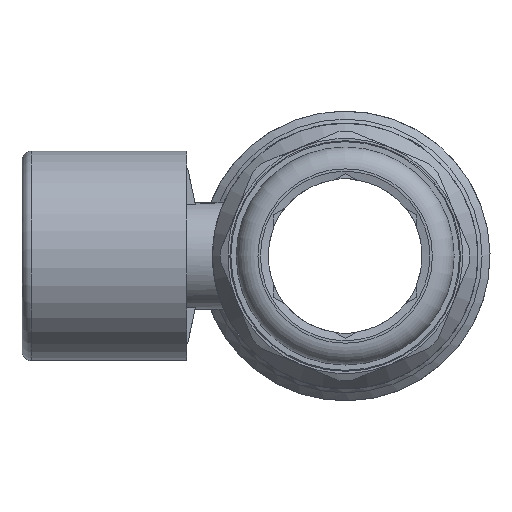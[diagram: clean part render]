
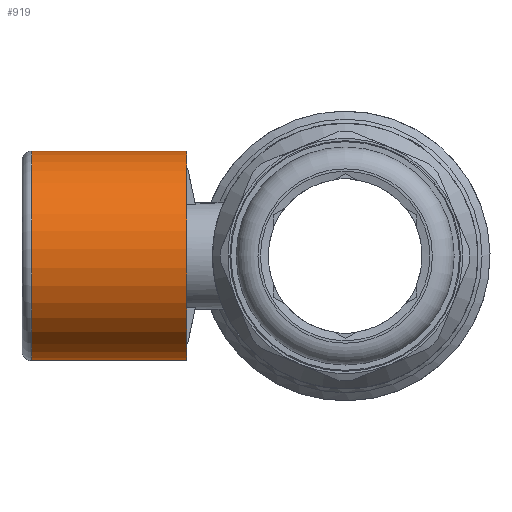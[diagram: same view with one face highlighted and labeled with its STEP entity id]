
A CAD part, left-side view. The second image highlights one B-rep face of the part: STEP entity #919.
In plain terms, the highlighted cylindrical face has radius 21.7 mm (diameter 43.4 mm), a full revolution.
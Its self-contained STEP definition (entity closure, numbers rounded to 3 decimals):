
#877=CARTESIAN_POINT('',(1.374,64.7,21.656));
#878=VERTEX_POINT('',#877);
#879=CARTESIAN_POINT('',(0.,64.7,0.));
#880=DIRECTION('',(0.0,1.0,0.0));
#881=DIRECTION('',(0.063,0.0,0.998));
#882=AXIS2_PLACEMENT_3D('',#879,#880,#881);
#883=CIRCLE('',#882,21.7);
#884=EDGE_CURVE('',#878,#878,#883,.T.);
#900=CARTESIAN_POINT('',(0.0,48.7,0.0));
#901=DIRECTION('',(0.0,1.0,0.0));
#902=DIRECTION('',(-0.998,0.0,0.063));
#903=AXIS2_PLACEMENT_3D('',#900,#901,#902);
#904=CYLINDRICAL_SURFACE('',#903,21.7);
#905=CARTESIAN_POINT('',(1.374,32.7,21.656));
#906=VERTEX_POINT('',#905);
#907=CARTESIAN_POINT('',(0.,32.7,0.));
#908=DIRECTION('',(0.0,1.0,0.0));
#909=DIRECTION('',(0.063,0.0,0.998));
#910=AXIS2_PLACEMENT_3D('',#907,#908,#909);
#911=CIRCLE('',#910,21.7);
#912=EDGE_CURVE('',#906,#906,#911,.T.);
#913=ORIENTED_EDGE('',*,*,#912,.T.);
#914=EDGE_LOOP('',(#913));
#915=FACE_OUTER_BOUND('',#914,.T.);
#916=ORIENTED_EDGE('',*,*,#884,.F.);
#917=EDGE_LOOP('',(#916));
#918=FACE_BOUND('',#917,.T.);
#919=ADVANCED_FACE('',(#915,#918),#904,.T.);
